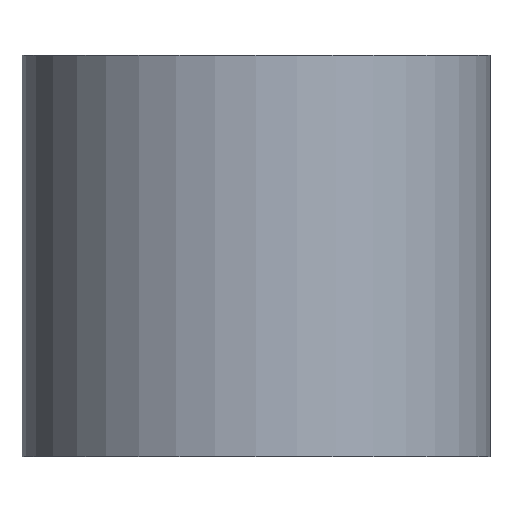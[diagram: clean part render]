
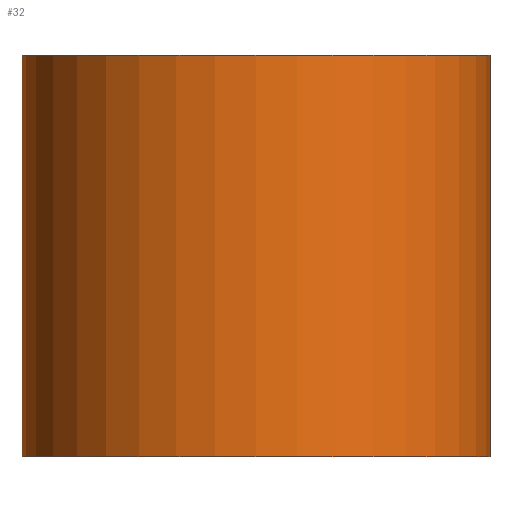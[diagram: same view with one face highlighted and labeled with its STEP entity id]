
A CAD part, front view. The second image highlights one B-rep face of the part: STEP entity #32.
In plain terms, the highlighted cylindrical face has radius 17.5 mm (diameter 35 mm), a full revolution.
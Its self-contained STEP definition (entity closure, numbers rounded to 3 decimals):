
#32 = ADVANCED_FACE( '', ( #61, #62 ), #63, .T. );
#61 = FACE_OUTER_BOUND( '', #84, .T. );
#62 = FACE_OUTER_BOUND( '', #85, .T. );
#63 = CYLINDRICAL_SURFACE( '', #86, 17.5 );
#84 = EDGE_LOOP( '', ( #105 ) );
#85 = EDGE_LOOP( '', ( #106 ) );
#86 = AXIS2_PLACEMENT_3D( '', #107, #108, #109 );
#105 = ORIENTED_EDGE( '', *, *, #121, .T. );
#106 = ORIENTED_EDGE( '', *, *, #118, .F. );
#107 = CARTESIAN_POINT( '', ( 0., 0., 30. ) );
#108 = DIRECTION( '', ( 0., 0., 1. ) );
#109 = DIRECTION( '', ( -1., 0., 0. ) );
#118 = EDGE_CURVE( '', #127, #127, #128, .T. );
#121 = EDGE_CURVE( '', #132, #132, #133, .T. );
#127 = VERTEX_POINT( '', #139 );
#128 = CIRCLE( '', #140, 17.5 );
#132 = VERTEX_POINT( '', #144 );
#133 = CIRCLE( '', #145, 17.5 );
#139 = CARTESIAN_POINT( '', ( 17.5, 0., 0. ) );
#140 = AXIS2_PLACEMENT_3D( '', #151, #152, #153 );
#144 = CARTESIAN_POINT( '', ( 17.5, 0., 30. ) );
#145 = AXIS2_PLACEMENT_3D( '', #157, #158, #159 );
#151 = CARTESIAN_POINT( '', ( 0., 0., 0. ) );
#152 = DIRECTION( '', ( 0., 0., -1. ) );
#153 = DIRECTION( '', ( 1., 0., 0. ) );
#157 = CARTESIAN_POINT( '', ( 0., 0., 30. ) );
#158 = DIRECTION( '', ( 0., 0., -1. ) );
#159 = DIRECTION( '', ( 1., 0., 0. ) );
